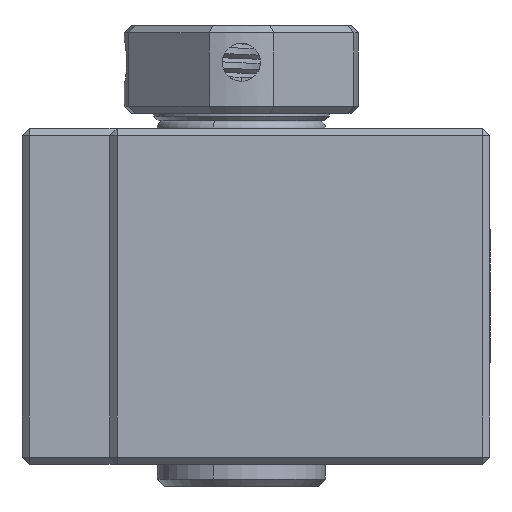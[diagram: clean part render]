
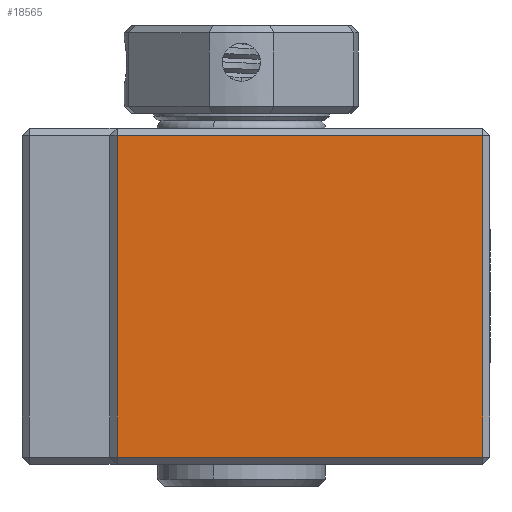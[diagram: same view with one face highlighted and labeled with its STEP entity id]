
A CAD part, left-side view. The second image highlights one B-rep face of the part: STEP entity #18565.
In plain terms, the highlighted planar face has unit normal (-1, 0, 0).
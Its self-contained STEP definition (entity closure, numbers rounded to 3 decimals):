
#18565 = ADVANCED_FACE ( 'NONE', ( #37110 ), #37108, .F. ) ;
#18566 = EDGE_LOOP ( 'NONE', ( #18568, #18574, #18670, #18675 ) ) ;
#18568 = ORIENTED_EDGE ( 'NONE', *, *, #18569, .T. ) ;
#18569 = EDGE_CURVE ( 'NONE', #18570, #18572, #37103, .T. ) ;
#18570 = VERTEX_POINT ( 'NONE', #37198 ) ;
#18572 = VERTEX_POINT ( 'NONE', #37197 ) ;
#18574 = ORIENTED_EDGE ( 'NONE', *, *, #18576, .T. ) ;
#18576 = EDGE_CURVE ( 'NONE', #18572, #18577, #37195, .T. ) ;
#18577 = VERTEX_POINT ( 'NONE', #37190 ) ;
#18670 = ORIENTED_EDGE ( 'NONE', *, *, #18672, .T. ) ;
#18672 = EDGE_CURVE ( 'NONE', #18577, #18674, #37348, .T. ) ;
#18674 = VERTEX_POINT ( 'NONE', #37339 ) ;
#18675 = ORIENTED_EDGE ( 'NONE', *, *, #18677, .T. ) ;
#18677 = EDGE_CURVE ( 'NONE', #18674, #18570, #37335, .T. ) ;
#37097 = DIRECTION ( 'NONE',  ( 0., -1., 0. ) ) ;
#37098 = VECTOR ( 'NONE', #37097, 1000. ) ;
#37099 = CARTESIAN_POINT ( 'NONE',  ( -26., 26., -11. ) ) ;
#37100 = DIRECTION ( 'NONE',  ( 0., 0., -1. ) ) ;
#37101 = DIRECTION ( 'NONE',  ( 1., 0., 0. ) ) ;
#37102 = AXIS2_PLACEMENT_3D ( 'NONE', #37107, #37101, #37100 ) ;
#37103 = LINE ( 'NONE', #37099, #37098 ) ;
#37107 = CARTESIAN_POINT ( 'NONE',  ( -26., 26., 11.5 ) ) ;
#37108 = PLANE ( 'NONE',  #37102 ) ;
#37110 = FACE_OUTER_BOUND ( 'NONE', #18566, .T. ) ;
#37190 = CARTESIAN_POINT ( 'NONE',  ( -26., 0.5, 11. ) ) ;
#37192 = DIRECTION ( 'NONE',  ( 0., 0., 1. ) ) ;
#37193 = VECTOR ( 'NONE', #37192, 1000. ) ;
#37194 = CARTESIAN_POINT ( 'NONE',  ( -26., 0.5, 11.5 ) ) ;
#37195 = LINE ( 'NONE', #37194, #37193 ) ;
#37197 = CARTESIAN_POINT ( 'NONE',  ( -26., 0.5, -11. ) ) ;
#37198 = CARTESIAN_POINT ( 'NONE',  ( -26., 25.5, -11. ) ) ;
#37332 = VECTOR ( 'NONE', #37432, 1000. ) ;
#37333 = CARTESIAN_POINT ( 'NONE',  ( -26., 25.5, 11.5 ) ) ;
#37335 = LINE ( 'NONE', #37333, #37332 ) ;
#37339 = CARTESIAN_POINT ( 'NONE',  ( -26., 25.5, 11. ) ) ;
#37342 = DIRECTION ( 'NONE',  ( 0., 1., 0. ) ) ;
#37343 = VECTOR ( 'NONE', #37342, 1000. ) ;
#37344 = CARTESIAN_POINT ( 'NONE',  ( -26., 26., 11. ) ) ;
#37348 = LINE ( 'NONE', #37344, #37343 ) ;
#37432 = DIRECTION ( 'NONE',  ( 0., 0., -1. ) ) ;
